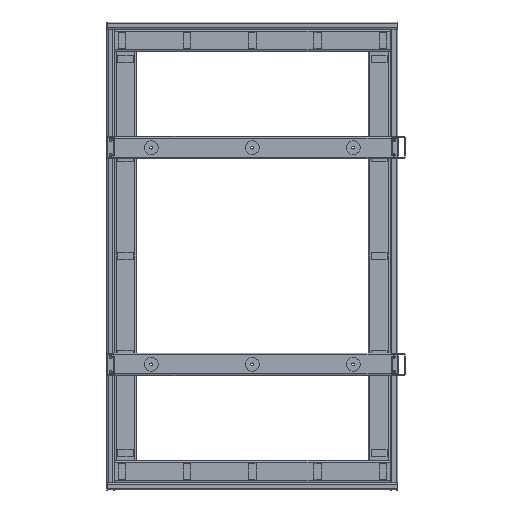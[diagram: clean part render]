
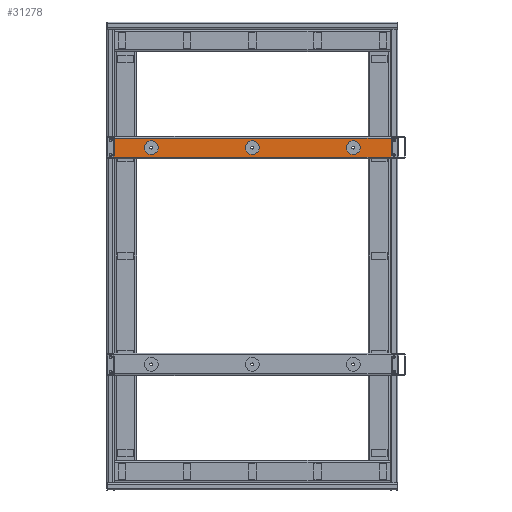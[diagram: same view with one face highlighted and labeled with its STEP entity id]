
A CAD part, left-side view. The second image highlights one B-rep face of the part: STEP entity #31278.
In plain terms, the highlighted planar face has unit normal (-1, 0, 0) as drawn and (0, 1, 0) by its records, which use the part's own axes.
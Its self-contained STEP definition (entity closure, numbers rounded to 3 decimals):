
#30077 = PLANE('',#30078);
#30078 = AXIS2_PLACEMENT_3D('',#30079,#30080,#30081);
#30079 = CARTESIAN_POINT('',(19.05,6.35,-238.489));
#30080 = DIRECTION('',(0.,-0.707,
    0.707));
#30081 = DIRECTION('',(0.,-0.707,
    -0.707));
#30105 = CYLINDRICAL_SURFACE('',#30106,2.779);
#30106 = AXIS2_PLACEMENT_3D('',#30107,#30108,#30109);
#30107 = CARTESIAN_POINT('',(-16.271,3.571,-249.8));
#30108 = DIRECTION('',(-0.,-0.,-1.));
#30109 = DIRECTION('',(0.,1.,0.));
#30132 = PLANE('',#30133);
#30133 = AXIS2_PLACEMENT_3D('',#30134,#30135,#30136);
#30134 = CARTESIAN_POINT('',(19.05,6.35,237.1));
#30135 = DIRECTION('',(0.,0.707,0.707)
  );
#30136 = DIRECTION('',(0.,-0.707,
    0.707));
#30175 = VERTEX_POINT('',#30176);
#30176 = CARTESIAN_POINT('',(16.271,6.35,-238.489));
#30191 = CYLINDRICAL_SURFACE('',#30192,2.779);
#30192 = AXIS2_PLACEMENT_3D('',#30193,#30194,#30195);
#30193 = CARTESIAN_POINT('',(16.271,3.571,-249.8));
#30194 = DIRECTION('',(-0.,-0.,-1.));
#30195 = DIRECTION('',(1.,0.,0.));
#30209 = EDGE_CURVE('',#30175,#30210,#30212,.T.);
#30210 = VERTEX_POINT('',#30211);
#30211 = CARTESIAN_POINT('',(-16.271,6.35,-238.489));
#30212 = SURFACE_CURVE('',#30213,(#30217,#30224),.PCURVE_S1.);
#30213 = LINE('',#30214,#30215);
#30214 = CARTESIAN_POINT('',(19.05,6.35,-238.489));
#30215 = VECTOR('',#30216,1.);
#30216 = DIRECTION('',(-1.,0.,0.));
#30217 = PCURVE('',#30077,#30218);
#30218 = DEFINITIONAL_REPRESENTATION('',(#30219),#30223);
#30219 = LINE('',#30220,#30221);
#30220 = CARTESIAN_POINT('',(-0.,0.));
#30221 = VECTOR('',#30222,1.);
#30222 = DIRECTION('',(0.,-1.));
#30223 = ( GEOMETRIC_REPRESENTATION_CONTEXT(2) 
PARAMETRIC_REPRESENTATION_CONTEXT() REPRESENTATION_CONTEXT('2D SPACE',''
  ) );
#30224 = PCURVE('',#30225,#30230);
#30225 = PLANE('',#30226);
#30226 = AXIS2_PLACEMENT_3D('',#30227,#30228,#30229);
#30227 = CARTESIAN_POINT('',(16.271,6.35,-249.8));
#30228 = DIRECTION('',(0.,-1.,0.));
#30229 = DIRECTION('',(-1.,0.,0.));
#30230 = DEFINITIONAL_REPRESENTATION('',(#30231),#30235);
#30231 = LINE('',#30232,#30233);
#30232 = CARTESIAN_POINT('',(-2.779,-11.311));
#30233 = VECTOR('',#30234,1.);
#30234 = DIRECTION('',(1.,0.));
#30235 = ( GEOMETRIC_REPRESENTATION_CONTEXT(2) 
PARAMETRIC_REPRESENTATION_CONTEXT() REPRESENTATION_CONTEXT('2D SPACE',''
  ) );
#30732 = VERTEX_POINT('',#30733);
#30733 = CARTESIAN_POINT('',(16.271,6.35,237.1));
#30761 = EDGE_CURVE('',#30732,#30762,#30764,.T.);
#30762 = VERTEX_POINT('',#30763);
#30763 = CARTESIAN_POINT('',(-16.271,6.35,237.1));
#30764 = SURFACE_CURVE('',#30765,(#30769,#30776),.PCURVE_S1.);
#30765 = LINE('',#30766,#30767);
#30766 = CARTESIAN_POINT('',(19.05,6.35,237.1));
#30767 = VECTOR('',#30768,1.);
#30768 = DIRECTION('',(-1.,0.,0.));
#30769 = PCURVE('',#30132,#30770);
#30770 = DEFINITIONAL_REPRESENTATION('',(#30771),#30775);
#30771 = LINE('',#30772,#30773);
#30772 = CARTESIAN_POINT('',(0.,0.));
#30773 = VECTOR('',#30774,1.);
#30774 = DIRECTION('',(0.,-1.));
#30775 = ( GEOMETRIC_REPRESENTATION_CONTEXT(2) 
PARAMETRIC_REPRESENTATION_CONTEXT() REPRESENTATION_CONTEXT('2D SPACE',''
  ) );
#30776 = PCURVE('',#30225,#30777);
#30777 = DEFINITIONAL_REPRESENTATION('',(#30778),#30782);
#30778 = LINE('',#30779,#30780);
#30779 = CARTESIAN_POINT('',(-2.779,-486.9));
#30780 = VECTOR('',#30781,1.);
#30781 = DIRECTION('',(1.,0.));
#30782 = ( GEOMETRIC_REPRESENTATION_CONTEXT(2) 
PARAMETRIC_REPRESENTATION_CONTEXT() REPRESENTATION_CONTEXT('2D SPACE',''
  ) );
#31107 = EDGE_CURVE('',#30210,#30762,#31108,.T.);
#31108 = SURFACE_CURVE('',#31109,(#31113,#31119),.PCURVE_S1.);
#31109 = LINE('',#31110,#31111);
#31110 = CARTESIAN_POINT('',(-16.271,6.35,-249.8));
#31111 = VECTOR('',#31112,1.);
#31112 = DIRECTION('',(0.,0.,1.));
#31113 = PCURVE('',#30105,#31114);
#31114 = DEFINITIONAL_REPRESENTATION('',(#31115),#31118);
#31115 = B_SPLINE_CURVE_WITH_KNOTS('',1,(#31116,#31117),.UNSPECIFIED.,
  .F.,.F.,(2,2),(11.311,486.9),.PIECEWISE_BEZIER_KNOTS.);
#31116 = CARTESIAN_POINT('',(6.283,-11.311));
#31117 = CARTESIAN_POINT('',(6.283,-486.9));
#31118 = ( GEOMETRIC_REPRESENTATION_CONTEXT(2) 
PARAMETRIC_REPRESENTATION_CONTEXT() REPRESENTATION_CONTEXT('2D SPACE',''
  ) );
#31119 = PCURVE('',#30225,#31120);
#31120 = DEFINITIONAL_REPRESENTATION('',(#31121),#31125);
#31121 = LINE('',#31122,#31123);
#31122 = CARTESIAN_POINT('',(32.542,0.));
#31123 = VECTOR('',#31124,1.);
#31124 = DIRECTION('',(0.,-1.));
#31125 = ( GEOMETRIC_REPRESENTATION_CONTEXT(2) 
PARAMETRIC_REPRESENTATION_CONTEXT() REPRESENTATION_CONTEXT('2D SPACE',''
  ) );
#31131 = EDGE_CURVE('',#30175,#30732,#31132,.T.);
#31132 = SURFACE_CURVE('',#31133,(#31137,#31143),.PCURVE_S1.);
#31133 = LINE('',#31134,#31135);
#31134 = CARTESIAN_POINT('',(16.271,6.35,-249.8));
#31135 = VECTOR('',#31136,1.);
#31136 = DIRECTION('',(0.,0.,1.));
#31137 = PCURVE('',#30191,#31138);
#31138 = DEFINITIONAL_REPRESENTATION('',(#31139),#31142);
#31139 = B_SPLINE_CURVE_WITH_KNOTS('',1,(#31140,#31141),.UNSPECIFIED.,
  .F.,.F.,(2,2),(11.311,486.9),.PIECEWISE_BEZIER_KNOTS.);
#31140 = CARTESIAN_POINT('',(4.712,-11.311));
#31141 = CARTESIAN_POINT('',(4.712,-486.9));
#31142 = ( GEOMETRIC_REPRESENTATION_CONTEXT(2) 
PARAMETRIC_REPRESENTATION_CONTEXT() REPRESENTATION_CONTEXT('2D SPACE',''
  ) );
#31143 = PCURVE('',#30225,#31144);
#31144 = DEFINITIONAL_REPRESENTATION('',(#31145),#31149);
#31145 = LINE('',#31146,#31147);
#31146 = CARTESIAN_POINT('',(0.,-0.));
#31147 = VECTOR('',#31148,1.);
#31148 = DIRECTION('',(0.,-1.));
#31149 = ( GEOMETRIC_REPRESENTATION_CONTEXT(2) 
PARAMETRIC_REPRESENTATION_CONTEXT() REPRESENTATION_CONTEXT('2D SPACE',''
  ) );
#31278 = ADVANCED_FACE('',(#31279,#31285,#31315,#31345),#30225,.F.);
#31279 = FACE_BOUND('',#31280,.F.);
#31280 = EDGE_LOOP('',(#31281,#31282,#31283,#31284));
#31281 = ORIENTED_EDGE('',*,*,#30209,.F.);
#31282 = ORIENTED_EDGE('',*,*,#31131,.T.);
#31283 = ORIENTED_EDGE('',*,*,#30761,.T.);
#31284 = ORIENTED_EDGE('',*,*,#31107,.F.);
#31285 = FACE_BOUND('',#31286,.F.);
#31286 = EDGE_LOOP('',(#31287));
#31287 = ORIENTED_EDGE('',*,*,#31288,.F.);
#31288 = EDGE_CURVE('',#31289,#31289,#31291,.T.);
#31289 = VERTEX_POINT('',#31290);
#31290 = CARTESIAN_POINT('',(11.906,6.35,0.));
#31291 = SURFACE_CURVE('',#31292,(#31297,#31304),.PCURVE_S1.);
#31292 = CIRCLE('',#31293,11.906);
#31293 = AXIS2_PLACEMENT_3D('',#31294,#31295,#31296);
#31294 = CARTESIAN_POINT('',(0.,6.35,0.));
#31295 = DIRECTION('',(0.,-1.,0.));
#31296 = DIRECTION('',(1.,0.,0.));
#31297 = PCURVE('',#30225,#31298);
#31298 = DEFINITIONAL_REPRESENTATION('',(#31299),#31303);
#31299 = CIRCLE('',#31300,11.906);
#31300 = AXIS2_PLACEMENT_2D('',#31301,#31302);
#31301 = CARTESIAN_POINT('',(16.271,-249.8));
#31302 = DIRECTION('',(-1.,-0.));
#31303 = ( GEOMETRIC_REPRESENTATION_CONTEXT(2) 
PARAMETRIC_REPRESENTATION_CONTEXT() REPRESENTATION_CONTEXT('2D SPACE',''
  ) );
#31304 = PCURVE('',#31305,#31310);
#31305 = CYLINDRICAL_SURFACE('',#31306,11.906);
#31306 = AXIS2_PLACEMENT_3D('',#31307,#31308,#31309);
#31307 = CARTESIAN_POINT('',(0.,6.35,0.));
#31308 = DIRECTION('',(0.,-1.,0.));
#31309 = DIRECTION('',(1.,0.,0.));
#31310 = DEFINITIONAL_REPRESENTATION('',(#31311),#31314);
#31311 = B_SPLINE_CURVE_WITH_KNOTS('',1,(#31312,#31313),.UNSPECIFIED.,
  .F.,.F.,(2,2),(0.,6.283),.PIECEWISE_BEZIER_KNOTS.);
#31312 = CARTESIAN_POINT('',(0.,0.));
#31313 = CARTESIAN_POINT('',(6.283,0.));
#31314 = ( GEOMETRIC_REPRESENTATION_CONTEXT(2) 
PARAMETRIC_REPRESENTATION_CONTEXT() REPRESENTATION_CONTEXT('2D SPACE',''
  ) );
#31315 = FACE_BOUND('',#31316,.F.);
#31316 = EDGE_LOOP('',(#31317));
#31317 = ORIENTED_EDGE('',*,*,#31318,.F.);
#31318 = EDGE_CURVE('',#31319,#31319,#31321,.T.);
#31319 = VERTEX_POINT('',#31320);
#31320 = CARTESIAN_POINT('',(11.906,6.35,173.6));
#31321 = SURFACE_CURVE('',#31322,(#31327,#31334),.PCURVE_S1.);
#31322 = CIRCLE('',#31323,11.906);
#31323 = AXIS2_PLACEMENT_3D('',#31324,#31325,#31326);
#31324 = CARTESIAN_POINT('',(0.,6.35,173.6));
#31325 = DIRECTION('',(0.,-1.,0.));
#31326 = DIRECTION('',(1.,0.,0.));
#31327 = PCURVE('',#30225,#31328);
#31328 = DEFINITIONAL_REPRESENTATION('',(#31329),#31333);
#31329 = CIRCLE('',#31330,11.906);
#31330 = AXIS2_PLACEMENT_2D('',#31331,#31332);
#31331 = CARTESIAN_POINT('',(16.271,-423.4));
#31332 = DIRECTION('',(-1.,-0.));
#31333 = ( GEOMETRIC_REPRESENTATION_CONTEXT(2) 
PARAMETRIC_REPRESENTATION_CONTEXT() REPRESENTATION_CONTEXT('2D SPACE',''
  ) );
#31334 = PCURVE('',#31335,#31340);
#31335 = CYLINDRICAL_SURFACE('',#31336,11.906);
#31336 = AXIS2_PLACEMENT_3D('',#31337,#31338,#31339);
#31337 = CARTESIAN_POINT('',(0.,6.35,173.6));
#31338 = DIRECTION('',(0.,-1.,0.));
#31339 = DIRECTION('',(1.,0.,0.));
#31340 = DEFINITIONAL_REPRESENTATION('',(#31341),#31344);
#31341 = B_SPLINE_CURVE_WITH_KNOTS('',1,(#31342,#31343),.UNSPECIFIED.,
  .F.,.F.,(2,2),(0.,6.283),.PIECEWISE_BEZIER_KNOTS.);
#31342 = CARTESIAN_POINT('',(0.,0.));
#31343 = CARTESIAN_POINT('',(6.283,0.));
#31344 = ( GEOMETRIC_REPRESENTATION_CONTEXT(2) 
PARAMETRIC_REPRESENTATION_CONTEXT() REPRESENTATION_CONTEXT('2D SPACE',''
  ) );
#31345 = FACE_BOUND('',#31346,.F.);
#31346 = EDGE_LOOP('',(#31347));
#31347 = ORIENTED_EDGE('',*,*,#31348,.F.);
#31348 = EDGE_CURVE('',#31349,#31349,#31351,.T.);
#31349 = VERTEX_POINT('',#31350);
#31350 = CARTESIAN_POINT('',(11.906,6.35,-173.6));
#31351 = SURFACE_CURVE('',#31352,(#31357,#31364),.PCURVE_S1.);
#31352 = CIRCLE('',#31353,11.906);
#31353 = AXIS2_PLACEMENT_3D('',#31354,#31355,#31356);
#31354 = CARTESIAN_POINT('',(0.,6.35,-173.6));
#31355 = DIRECTION('',(0.,-1.,0.));
#31356 = DIRECTION('',(1.,0.,0.));
#31357 = PCURVE('',#30225,#31358);
#31358 = DEFINITIONAL_REPRESENTATION('',(#31359),#31363);
#31359 = CIRCLE('',#31360,11.906);
#31360 = AXIS2_PLACEMENT_2D('',#31361,#31362);
#31361 = CARTESIAN_POINT('',(16.271,-76.2));
#31362 = DIRECTION('',(-1.,-0.));
#31363 = ( GEOMETRIC_REPRESENTATION_CONTEXT(2) 
PARAMETRIC_REPRESENTATION_CONTEXT() REPRESENTATION_CONTEXT('2D SPACE',''
  ) );
#31364 = PCURVE('',#31365,#31370);
#31365 = CYLINDRICAL_SURFACE('',#31366,11.906);
#31366 = AXIS2_PLACEMENT_3D('',#31367,#31368,#31369);
#31367 = CARTESIAN_POINT('',(0.,6.35,-173.6));
#31368 = DIRECTION('',(0.,-1.,0.));
#31369 = DIRECTION('',(1.,0.,0.));
#31370 = DEFINITIONAL_REPRESENTATION('',(#31371),#31374);
#31371 = B_SPLINE_CURVE_WITH_KNOTS('',1,(#31372,#31373),.UNSPECIFIED.,
  .F.,.F.,(2,2),(0.,6.283),.PIECEWISE_BEZIER_KNOTS.);
#31372 = CARTESIAN_POINT('',(0.,0.));
#31373 = CARTESIAN_POINT('',(6.283,0.));
#31374 = ( GEOMETRIC_REPRESENTATION_CONTEXT(2) 
PARAMETRIC_REPRESENTATION_CONTEXT() REPRESENTATION_CONTEXT('2D SPACE',''
  ) );
